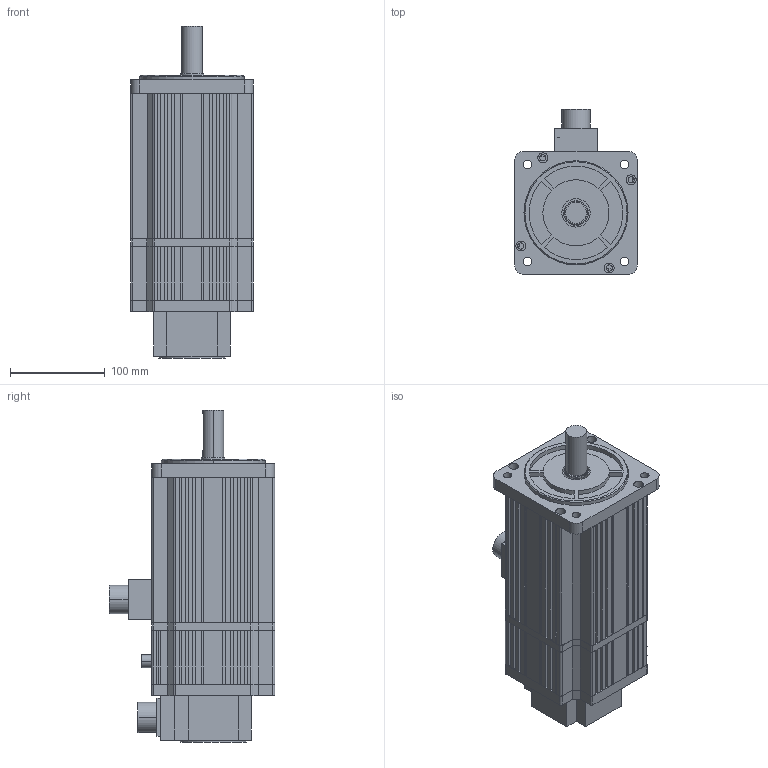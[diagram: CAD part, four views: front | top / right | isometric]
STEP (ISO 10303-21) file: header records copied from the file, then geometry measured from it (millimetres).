
FILE_DESCRIPTION (( 'STEP AP203' ), '1' );
FILE_NAME ('130-15025(带抱闸）装配体.STEP', '2020-02-28T08:58:50', ( '' ), ( '' ), 'SwSTEP 2.0', 'SolidWorks 2016', '' );
FILE_SCHEMA (( 'CONFIG_CONTROL_DESIGN' ));
Length unit declared in the file: millimetre
Products named in the file (12): 130侜督ヶ裔; 130粣; 130隅赽 15籟2500; 130侜督惕掅傷裔; 130晤鎢ん; 130瑤脣; 130惕掅蚾饜极; 130瑤脣2; 130惕掅儂褲; 130侜督綴裔; 惕掅芛; 130-15025(带抱闸）装配体
Assembly tree (11 placements, depth 3):
  130-15025(带抱闸）装配体
    130隅赽 15籟2500
    130侜督ヶ裔
    130侜督綴裔
    130晤鎢ん
    130粣
    130瑤脣2
    130瑤脣
    130惕掅蚾饜极
      130惕掅儂褲
      130侜督惕掅傷裔
      惕掅芛
Bounding box: 130 x 174.73 x 351 mm (x, y, z)
Volume: 1450615.3 mm3; surface area: 460984.5 mm2
Topology: 14 solids, 14 shells, 826 faces, 2129 edges, 1396 vertices
Faces by surface type: plane 557, cylinder 249, cone 10, bspline 8, torus 2
Entity records: 26452 total; most frequent: CARTESIAN_POINT 4512, DIRECTION 4315, ORIENTED_EDGE 4242, EDGE_CURVE 2121, LINE 1537, VECTOR 1537, VERTEX_POINT 1396, AXIS2_PLACEMENT_3D 1389
